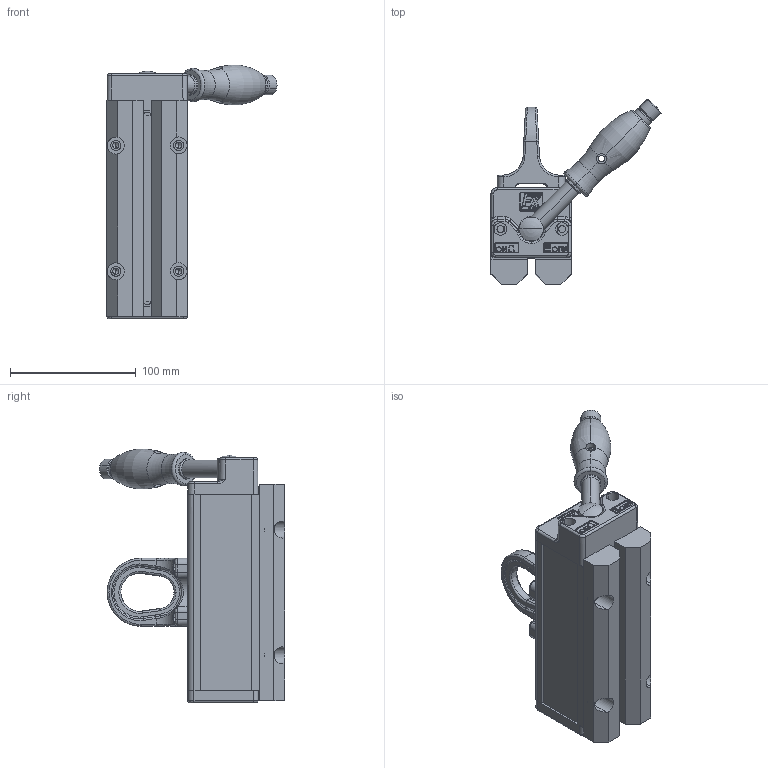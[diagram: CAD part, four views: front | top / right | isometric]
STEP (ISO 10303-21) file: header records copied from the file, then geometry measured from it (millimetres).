
FILE_DESCRIPTION (( 'STEP AP203' ), '1' );
FILE_NAME ('FXV0440.STEP', '2020-02-20T19:12:06', ( '' ), ( '' ), 'SwSTEP 2.0', 'SolidWorks 2018', '' );
FILE_SCHEMA (( 'CONFIG_CONTROL_DESIGN' ));
Length unit declared in the file: inch
Products named in the file (1): FXV0440
Bounding box: 135.17 x 147.17 x 201.89 mm (x, y, z)
Volume: 751954.6 mm3; surface area: 153468.4 mm2
Topology: 4 solids, 8 shells, 1581 faces, 3678 edges, 2135 vertices
Faces by surface type: cylinder 607, bspline 424, plane 398, cone 124, torus 26, sphere 2
Entity records: 66038 total; most frequent: CARTESIAN_POINT 33601, ORIENTED_EDGE 7214, DIRECTION 6048, EDGE_CURVE 3607, AXIS2_PLACEMENT_3D 2251, VERTEX_POINT 2134, EDGE_LOOP 1695, FACE_OUTER_BOUND 1581
